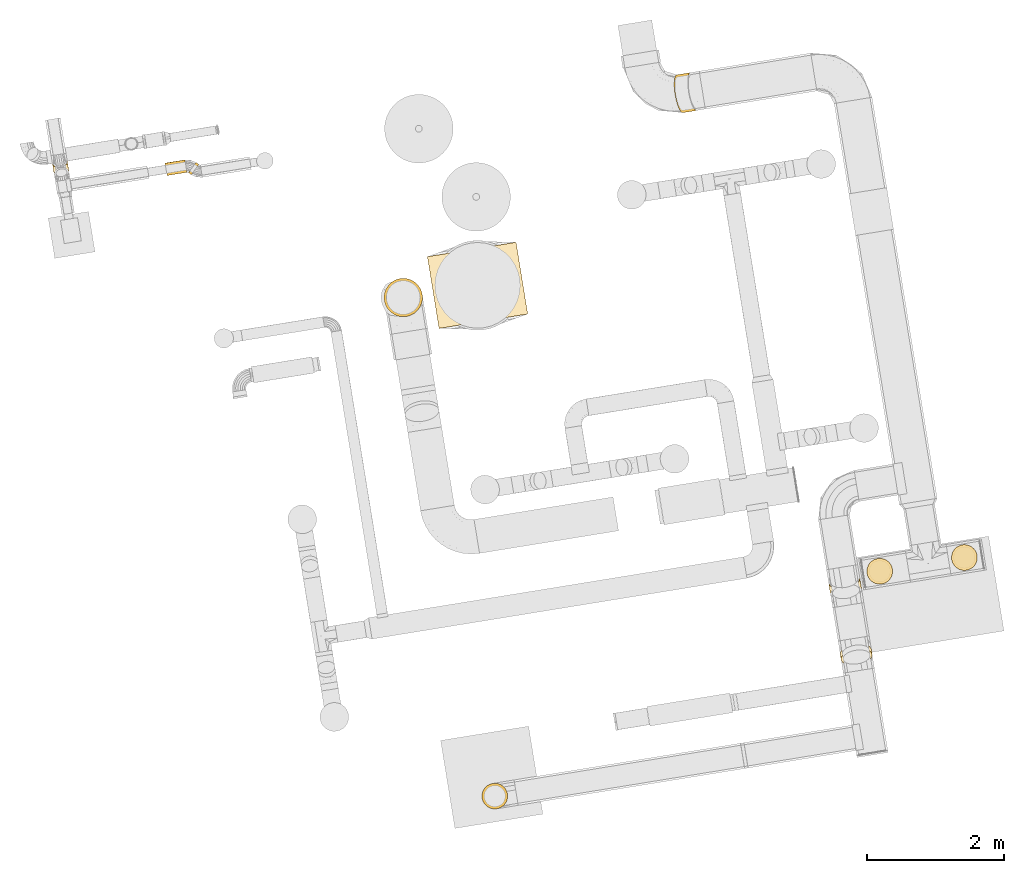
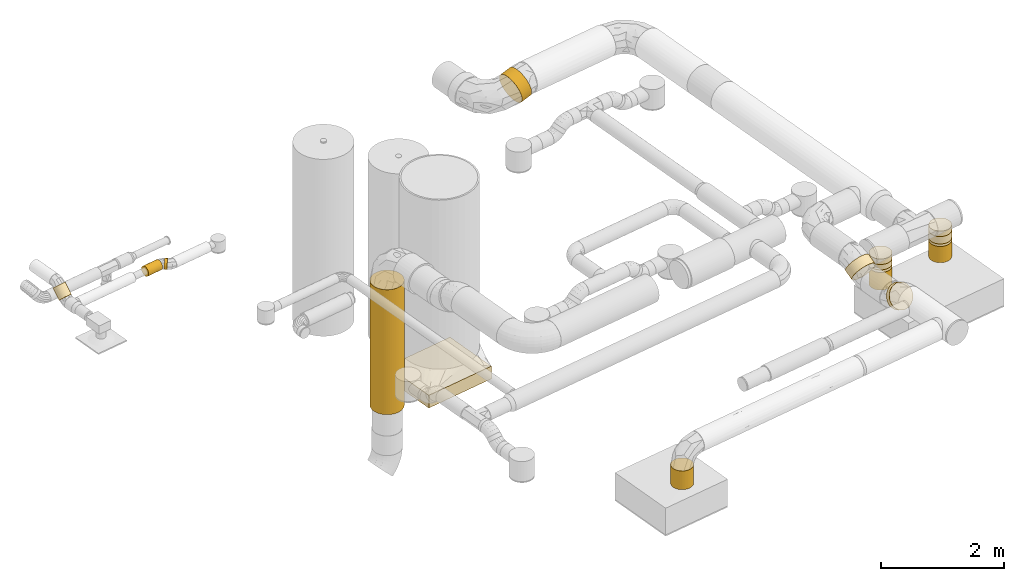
# One storey, part 1 of 39: 17 coverings.
"""IFC2X3 building model written with IfcOpenShell, lengths in millimetres."""

from ifc_helpers import new_model, entity, si_unit, converted_unit, derived_unit, direction, frame, frame_2d, origin, origin_with_axes, origin_2d_with_axis, place, context, subcontext, project, spatial, rectangle, circle, extrude, type_object, element, save


model = new_model("IFC2X3")

# Units and contexts
model_context = context("Model", 3, precision=0.01, world=origin(), true_north=direction((6.12323399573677e-17, 1.0)))
plan_context = context("Plan", 3, precision=1e-05, world=origin_with_axes())
body_context = subcontext(model_context, "Body", "Model", "MODEL_VIEW")
ifc_project = project(units=[converted_unit("PLANEANGLEUNIT", "DEGREE", entity("IfcPositiveLengthMeasure", 0.0174532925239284), si_unit("PLANEANGLEUNIT", "RADIAN"), dimensions=[0, 0, 0, 0, 0, 0, 0]), si_unit("AREAUNIT", "SQUARE_METRE"), si_unit("LENGTHUNIT", "METRE", prefix="MILLI"), si_unit("MASSUNIT", "GRAM", prefix="KILO"), si_unit("POWERUNIT", "WATT"), si_unit("PRESSUREUNIT", "PASCAL", prefix="KILO"), si_unit("FORCEUNIT", "NEWTON", prefix="KILO"), si_unit("ELECTRICVOLTAGEUNIT", "VOLT"), si_unit("ELECTRICCURRENTUNIT", "AMPERE"), si_unit("THERMODYNAMICTEMPERATUREUNIT", "DEGREE_CELSIUS"), si_unit("TIMEUNIT", "SECOND"), si_unit("VOLUMEUNIT", "CUBIC_METRE"), derived_unit("LINEARVELOCITYUNIT", [(si_unit("LENGTHUNIT", "METRE"), 1), (si_unit("TIMEUNIT", "SECOND"), -1)]), derived_unit("VOLUMETRICFLOWRATEUNIT", [(si_unit("VOLUMEUNIT", "CUBIC_METRE"), 1), (si_unit("TIMEUNIT", "SECOND"), -1)]), derived_unit("THERMALTRANSMITTANCEUNIT", [(si_unit("POWERUNIT", "WATT"), 1), (si_unit("THERMODYNAMICTEMPERATUREUNIT", "KELVIN"), -1), (si_unit("AREAUNIT", "SQUARE_METRE"), -1)]), derived_unit("SOUNDPRESSUREUNIT", [(si_unit("PRESSUREUNIT", "PASCAL"), 1)])], contexts=[model_context, plan_context])

# Site, building, storey
site_placement = place(None, frame((-0.00071070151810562, 0.00438415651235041, 0.0), z_axis=(0.0, 0.0, 1.0), x_axis=(-0.160236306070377, 0.987078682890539, 0.0)))
site = spatial("IfcSite", under=ifc_project, at=site_placement, Name="Default", CompositionType="ELEMENT")
building_placement = place(site_placement, origin_with_axes())
building = spatial("IfcBuilding", under=site, at=building_placement, CompositionType="ELEMENT")
storey_placement = place(building_placement, frame((0.0, 0.0, 50999.9999999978), z_axis=(0.0, 0.0, 1.0), x_axis=(1.0, 0.0, 0.0)))
storey = spatial("IfcBuildingStorey", under=building, at=storey_placement, Name="Nivå D", CompositionType="ELEMENT", Elevation=50999.9999999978)

# Coverings
covering_type_1 = type_object("IfcCoveringType", Name="Duct Insulation:MuT030", PredefinedType="INSULATION")
covering_1_placement = place(storey_placement, origin_with_axes())
element("IfcCovering", 1, at=covering_1_placement, inside=storey, type_object=covering_type_1, Name="Duct Insulation:MuT030", ObjectType="Duct Insulation:MuT030", PredefinedType="INSULATION", context=body_context, shape_type="SweptSolid", body=[
    extrude(rectangle(XDim=1060.00000000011, YDim=1309.99999999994, at=origin_2d_with_axis()), frame((776626.452700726, -596135.086612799, 199.998120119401)), (0.0, 0.0, 1.0), 252.132661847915),
])
covering_2_placement = place(storey_placement, origin_with_axes())
element("IfcCovering", 2, at=covering_2_placement, inside=storey, type_object=covering_type_1, Name="Duct Insulation:MuT030", ObjectType="Duct Insulation:MuT030", PredefinedType="INSULATION", context=body_context, shape_type="SweptSolid", body=[
    extrude(circle(Radius=280.0, at=origin_2d_with_axis()), frame((776624.566038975, -595037.180498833, 175.249999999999), z_axis=(0.0, 0.0, 1.0), x_axis=(0.0, 1.0, 0.0)), (0.0, 0.0, 1.0), 2474.75000000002),
])
covering_3_placement = place(storey_placement, origin_with_axes())
element("IfcCovering", 3, at=covering_3_placement, inside=storey, type_object=covering_type_1, Name="Duct Insulation:MuT030", ObjectType="Duct Insulation:MuT030", PredefinedType="INSULATION", context=body_context, shape_type="SweptSolid", body=[
    extrude(circle(Radius=92.4999999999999, at=origin_2d_with_axis()), frame((779024.265974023, -592215.676061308, 2899.9789210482), z_axis=(0.0, 0.999999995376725, 9.61589818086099e-05), x_axis=(1.0, 0.0, 0.0)), (0.0, 0.0, 1.0), 292.92441349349),
])
covering_4_placement = place(storey_placement, origin_with_axes())
element("IfcCovering", 4, at=covering_4_placement, inside=storey, type_object=covering_type_1, Name="Duct Insulation:MuT030", ObjectType="Duct Insulation:MuT030", PredefinedType="INSULATION", context=body_context, shape_type="SweptSolid", body=[
    extrude(circle(Radius=92.4999999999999, at=origin_2d_with_axis()), frame((778987.654321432, -592304.064409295, 2899.97394225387), z_axis=(-0.70710662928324, -0.707106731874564, 0.000533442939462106), x_axis=(0.707106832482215, -0.707106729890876, 0.0)), (0.0, 0.0, 1.0), 48.8482351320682),
])
covering_5_placement = place(storey_placement, origin_with_axes())
element("IfcCovering", 5, at=covering_5_placement, inside=storey, type_object=covering_type_1, Name="Duct Insulation:MuT030", ObjectType="Duct Insulation:MuT030", PredefinedType="INSULATION", context=body_context, shape_type="SweptSolid", body=[
    extrude(circle(Radius=110.0, at=frame_2d((0.0, 1.22512430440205e-11), x_axis=(1.0, 0.0))), frame((779219.097092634, -590409.98173883, 2946.85907735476), z_axis=(0.707106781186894, 0.0, 0.707106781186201), x_axis=(0.0, -1.0, 0.0)), (0.0, 0.0, 1.0), 221.01047789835),
])
covering_type_2 = type_object("IfcCoveringType", Name="Duct Insulation:EI 60-30", PredefinedType="INSULATION")
covering_6_placement = place(storey_placement, origin_with_axes())
element("IfcCovering", 6, at=covering_6_placement, inside=storey, type_object=covering_type_2, Name="Duct Insulation:EI 60-30", ObjectType="Duct Insulation:EI 60-30", PredefinedType="INSULATION", context=body_context, shape_type="SweptSolid", body=[
    extrude(circle(Radius=280.0, at=frame_2d((0.0, -2.63048193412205e-11), x_axis=(1.0, 0.0))), frame((778911.619644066, -599495.867991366, 3229.40952255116), z_axis=(0.0, -0.965925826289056, 0.258819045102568), x_axis=(-1.0, 0.0, 0.0)), (0.0, 0.0, 1.0), 206.914412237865),
])
covering_7_placement = place(storey_placement, origin_with_axes())
element("IfcCovering", 7, at=covering_7_placement, inside=storey, type_object=covering_type_2, Name="Duct Insulation:EI 60-30", ObjectType="Duct Insulation:EI 60-30", PredefinedType="INSULATION", context=body_context, shape_type="SweptSolid", body=[
    extrude(circle(Radius=187.5, at=origin_2d_with_axis()), frame((771571.619644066, -602506.055377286, 3075.0), z_axis=(0.0, 0.0, 1.0), x_axis=(-1.0, 0.0, 0.0)), (0.0, 0.0, 1.0), 107.833069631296),
])
covering_8_placement = place(storey_placement, origin_with_axes())
element("IfcCovering", 8, at=covering_8_placement, inside=storey, type_object=covering_type_2, Name="Duct Insulation:EI 60-30", ObjectType="Duct Insulation:EI 60-30", PredefinedType="INSULATION", context=body_context, shape_type="SweptSolid", body=[
    extrude(circle(Radius=187.5, at=frame_2d((0.0, -6.93034962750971e-11), x_axis=(1.0, 0.0))), frame((771571.619644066, -601255.985577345, 2968.0000000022)), (0.0, 0.0, 1.0), 106.999999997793),
])
covering_9_placement = place(storey_placement, origin_with_axes())
element("IfcCovering", 9, at=covering_9_placement, inside=storey, type_object=covering_type_2, Name="Duct Insulation:EI 60-30", ObjectType="Duct Insulation:EI 60-30", PredefinedType="INSULATION", context=body_context, shape_type="SweptSolid", body=[
    extrude(circle(Radius=187.5, at=origin_2d_with_axis()), frame((769234.832653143, -595189.746741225, 2565.0), z_axis=(0.0, 0.0, 1.0), x_axis=(-1.0, 0.0, 0.0)), (0.0, 0.0, 1.0), 370.000000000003),
])
covering_10_placement = place(storey_placement, origin_with_axes())
element("IfcCovering", 10, at=covering_10_placement, inside=storey, type_object=covering_type_2, Name="Duct Insulation:EI 60-30", ObjectType="Duct Insulation:EI 60-30", PredefinedType="INSULATION", context=body_context, shape_type="SweptSolid", body=[
    extrude(circle(Radius=230.0, at=frame_2d((0.0, -7.50232354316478e-12), x_axis=(1.0, 0.0))), frame((771357.652976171, -600722.905078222, 3153.58983848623), z_axis=(0.866025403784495, 0.0, 0.499999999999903), x_axis=(0.0, -1.0, 0.0)), (0.0, 0.0, 1.0), 185.640646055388),
])
covering_11_placement = place(storey_placement, origin_with_axes())
element("IfcCovering", 11, at=covering_11_placement, inside=storey, type_object=covering_type_2, Name="Duct Insulation:EI 60-30", ObjectType="Duct Insulation:EI 60-30", PredefinedType="INSULATION", context=body_context, shape_type="SweptSolid", body=[
    extrude(circle(Radius=187.5, at=origin_2d_with_axis()), frame((771571.619644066, -601255.985577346, 3075.0), z_axis=(0.0, 0.0, 1.0), x_axis=(-1.0, 0.0, 0.0)), (0.0, 0.0, 1.0), 107.833069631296),
])
covering_12_placement = place(storey_placement, origin_with_axes())
element("IfcCovering", 12, at=covering_12_placement, inside=storey, type_object=covering_type_2, Name="Duct Insulation:EI 60-30", ObjectType="Duct Insulation:EI 60-30", PredefinedType="INSULATION", context=body_context, shape_type="SweptSolid", body=[
    extrude(circle(Radius=187.5, at=frame_2d((0.0, 6.93034962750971e-11), x_axis=(1.0, 0.0))), frame((771571.619644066, -602506.055377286, 2929.0000000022)), (0.0, 0.0, 1.0), 145.999999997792),
])
covering_13_placement = place(storey_placement, origin_with_axes())
element("IfcCovering", 13, at=covering_13_placement, inside=storey, type_object=covering_type_2, Name="Duct Insulation:EI 60-30", ObjectType="Duct Insulation:EI 60-30", PredefinedType="INSULATION", context=body_context, shape_type="SweptSolid", body=[
    extrude(circle(Radius=187.5, at=origin_2d_with_axis()), frame((771571.619644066, -602506.055377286, 2877.0000000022), z_axis=(0.0, 0.0, 1.0), x_axis=(-1.0, 0.0, 0.0)), (0.0, 0.0, 1.0), 51.9999999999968),
])
covering_14_placement = place(storey_placement, origin_with_axes())
element("IfcCovering", 14, at=covering_14_placement, inside=storey, type_object=covering_type_2, Name="Duct Insulation:EI 60-30", ObjectType="Duct Insulation:EI 60-30", PredefinedType="INSULATION", context=body_context, shape_type="SweptSolid", body=[
    extrude(circle(Radius=187.5, at=frame_2d((0.0, -6.93034962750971e-11), x_axis=(1.0, 0.0))), frame((771571.619644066, -601255.985577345, 2565.0)), (0.0, 0.0, 1.0), 351.000000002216),
])
covering_15_placement = place(storey_placement, origin_with_axes())
element("IfcCovering", 15, at=covering_15_placement, inside=storey, type_object=covering_type_2, Name="Duct Insulation:EI 60-30", ObjectType="Duct Insulation:EI 60-30", PredefinedType="INSULATION", context=body_context, shape_type="SweptSolid", body=[
    extrude(circle(Radius=187.5, at=origin_2d_with_axis()), frame((771571.619644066, -601255.985577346, 2916.0000000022), z_axis=(0.0, 0.0, 1.0), x_axis=(-1.0, 0.0, 0.0)), (0.0, 0.0, 1.0), 51.9999999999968),
])
covering_16_placement = place(storey_placement, origin_with_axes())
element("IfcCovering", 16, at=covering_16_placement, inside=storey, type_object=covering_type_2, Name="Duct Insulation:EI 60-30", ObjectType="Duct Insulation:EI 60-30", PredefinedType="INSULATION", context=body_context, shape_type="SweptSolid", body=[
    extrude(circle(Radius=187.5, at=frame_2d((0.0, 6.93034962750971e-11), x_axis=(1.0, 0.0))), frame((771571.619644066, -602506.055377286, 2555.0)), (0.0, 0.0, 1.0), 322.000000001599),
])
covering_17_placement = place(storey_placement, origin_with_axes())
element("IfcCovering", 17, at=covering_17_placement, inside=storey, type_object=covering_type_2, Name="Duct Insulation:EI 60-30", ObjectType="Duct Insulation:EI 60-30", PredefinedType="INSULATION", context=body_context, shape_type="SweptSolid", body=[
    extrude(circle(Radius=230.0, at=frame_2d((6.93034962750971e-11, -5.96466023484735e-11), x_axis=(1.0, 0.0))), frame((770464.640274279, -600722.905078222, 3153.58983848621), z_axis=(-0.866025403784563, 0.0, 0.499999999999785), x_axis=(0.0, -1.0, 0.0)), (0.0, 0.0, 1.0), 85.6406460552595),
])

save(model, "model.ifc")
